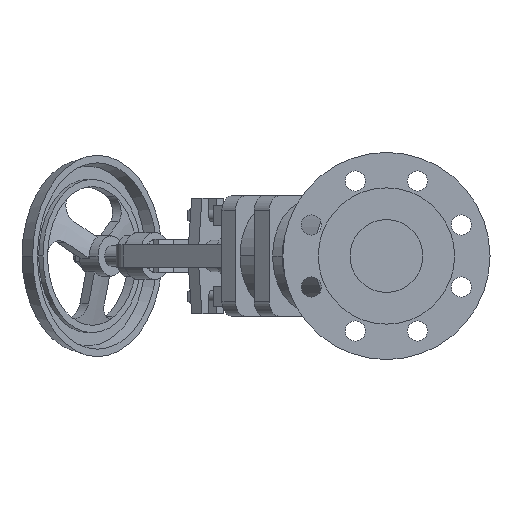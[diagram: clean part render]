
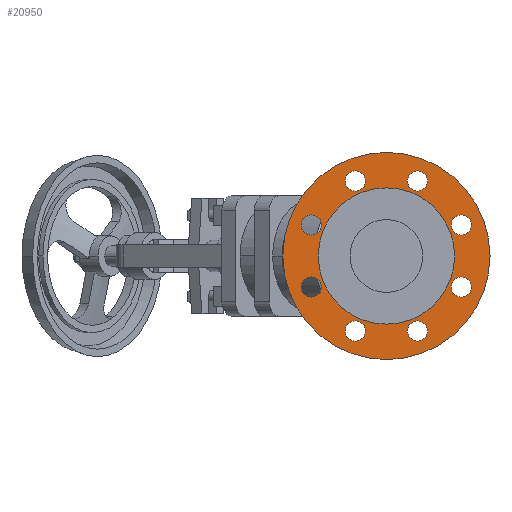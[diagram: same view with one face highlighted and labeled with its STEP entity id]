
A CAD part, left-side view. The second image highlights one B-rep face of the part: STEP entity #20950.
In plain terms, the highlighted planar face has unit normal (-1, 0, 0).
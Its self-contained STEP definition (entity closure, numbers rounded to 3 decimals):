
#4650=CARTESIAN_POINT('',(3.78,60.88,0.));
#4660=VERTEX_POINT('',#4650);
#4820=CARTESIAN_POINT('',(3.78,-60.88,0.));
#4830=VERTEX_POINT('',#4820);
#4860=CARTESIAN_POINT('',(3.78,0.,0.));
#4870=DIRECTION('',(-1.,0.,0.));
#4880=DIRECTION('',(0.,1.,0.));
#4890=AXIS2_PLACEMENT_3D('',#4860,#4870,#4880);
#4900=CIRCLE('',#4890,60.88);
#4910=EDGE_CURVE('',#4660,#4830,#4900,.T.);
#6840=CARTESIAN_POINT('',(3.78,0.,-92.5));
#6850=VERTEX_POINT('',#6840);
#7030=CARTESIAN_POINT('',(3.78,0.,92.5));
#7040=VERTEX_POINT('',#7030);
#7070=CARTESIAN_POINT('',(3.78,0.,0.));
#7080=DIRECTION('',(1.,0.,0.));
#7090=DIRECTION('',(0.,0.,-1.));
#7100=AXIS2_PLACEMENT_3D('',#7070,#7080,#7090);
#7110=CIRCLE('',#7100,92.5);
#7120=EDGE_CURVE('',#6850,#7040,#7110,.T.);
#7330=CARTESIAN_POINT('',(3.78,27.745,-57.981));
#7340=VERTEX_POINT('',#7330);
#7520=CARTESIAN_POINT('',(3.78,27.745,-75.981));
#7530=VERTEX_POINT('',#7520);
#7560=CARTESIAN_POINT('',(3.78,27.745,-66.981));
#7570=DIRECTION('',(-1.,0.,0.));
#7580=DIRECTION('',(0.,0.,-1.));
#7590=AXIS2_PLACEMENT_3D('',#7560,#7570,#7580);
#7600=CIRCLE('',#7590,9.);
#7610=EDGE_CURVE('',#7340,#7530,#7600,.T.);
#7820=CARTESIAN_POINT('',(3.78,-27.745,-57.981));
#7830=VERTEX_POINT('',#7820);
#8010=CARTESIAN_POINT('',(3.78,-27.745,-75.981));
#8020=VERTEX_POINT('',#8010);
#8050=CARTESIAN_POINT('',(3.78,-27.745,-66.981));
#8060=DIRECTION('',(-1.,0.,0.));
#8070=DIRECTION('',(0.,0.,-1.));
#8080=AXIS2_PLACEMENT_3D('',#8050,#8060,#8070);
#8090=CIRCLE('',#8080,9.);
#8100=EDGE_CURVE('',#7830,#8020,#8090,.T.);
#8310=CARTESIAN_POINT('',(3.78,66.981,-18.745));
#8320=VERTEX_POINT('',#8310);
#8500=CARTESIAN_POINT('',(3.78,66.981,-36.745));
#8510=VERTEX_POINT('',#8500);
#8540=CARTESIAN_POINT('',(3.78,66.981,-27.745));
#8550=DIRECTION('',(-1.,0.,0.));
#8560=DIRECTION('',(0.,0.,-1.));
#8570=AXIS2_PLACEMENT_3D('',#8540,#8550,#8560);
#8580=CIRCLE('',#8570,9.);
#8590=EDGE_CURVE('',#8320,#8510,#8580,.T.);
#8800=CARTESIAN_POINT('',(3.78,-66.981,-36.745));
#8810=VERTEX_POINT('',#8800);
#8860=CARTESIAN_POINT('',(3.78,-66.981,-27.745));
#8870=DIRECTION('',(-1.,0.,0.));
#8880=DIRECTION('',(0.,0.,-1.));
#8890=AXIS2_PLACEMENT_3D('',#8860,#8870,#8880);
#8900=CIRCLE('',#8890,9.);
#8910=CARTESIAN_POINT('',(3.78,-66.981,-18.745));
#8920=VERTEX_POINT('',#8910);
#8930=EDGE_CURVE('',#8920,#8810,#8900,.T.);
#9290=CARTESIAN_POINT('',(3.78,66.981,18.745));
#9300=VERTEX_POINT('',#9290);
#9480=CARTESIAN_POINT('',(3.78,66.981,36.745));
#9490=VERTEX_POINT('',#9480);
#9520=CARTESIAN_POINT('',(3.78,66.981,27.745));
#9530=DIRECTION('',(-1.,0.,0.));
#9540=DIRECTION('',(0.,0.,-1.));
#9550=AXIS2_PLACEMENT_3D('',#9520,#9530,#9540);
#9560=CIRCLE('',#9550,9.);
#9570=EDGE_CURVE('',#9300,#9490,#9560,.T.);
#9780=CARTESIAN_POINT('',(3.78,-66.981,36.745));
#9790=VERTEX_POINT('',#9780);
#9840=CARTESIAN_POINT('',(3.78,-66.981,27.745));
#9850=DIRECTION('',(-1.,0.,0.));
#9860=DIRECTION('',(0.,0.,-1.));
#9870=AXIS2_PLACEMENT_3D('',#9840,#9850,#9860);
#9880=CIRCLE('',#9870,9.);
#9890=CARTESIAN_POINT('',(3.78,-66.981,18.745));
#9900=VERTEX_POINT('',#9890);
#9910=EDGE_CURVE('',#9900,#9790,#9880,.T.);
#10270=CARTESIAN_POINT('',(3.78,27.745,57.981));
#10280=VERTEX_POINT('',#10270);
#10460=CARTESIAN_POINT('',(3.78,27.745,75.981));
#10470=VERTEX_POINT('',#10460);
#10500=CARTESIAN_POINT('',(3.78,27.745,66.981));
#10510=DIRECTION('',(-1.,0.,0.));
#10520=DIRECTION('',(0.,0.,-1.));
#10530=AXIS2_PLACEMENT_3D('',#10500,#10510,#10520);
#10540=CIRCLE('',#10530,9.);
#10550=EDGE_CURVE('',#10280,#10470,#10540,.T.);
#10760=CARTESIAN_POINT('',(3.78,-27.745,75.981));
#10770=VERTEX_POINT('',#10760);
#10950=CARTESIAN_POINT('',(3.78,-27.745,57.981));
#10960=VERTEX_POINT('',#10950);
#10990=CARTESIAN_POINT('',(3.78,-27.745,66.981));
#11000=DIRECTION('',(-1.,0.,0.));
#11010=DIRECTION('',(0.,0.,-1.));
#11020=AXIS2_PLACEMENT_3D('',#10990,#11000,#11010);
#11030=CIRCLE('',#11020,9.);
#11040=EDGE_CURVE('',#10770,#10960,#11030,.T.);
#20400=CARTESIAN_POINT('',(3.78,0.,0.));
#20410=DIRECTION('',(1.,0.,0.));
#20420=DIRECTION('',(0.,0.,-1.));
#20430=AXIS2_PLACEMENT_3D('',#20400,#20410,#20420);
#20440=PLANE('',#20430);
#20450=EDGE_CURVE('',#10960,#10770,#11030,.T.);
#20460=ORIENTED_EDGE('',*,*,#20450,.F.);
#20470=ORIENTED_EDGE('',*,*,#11040,.F.);
#20480=EDGE_LOOP('',(#20470,#20460));
#20490=FACE_BOUND('',#20480,.T.);
#20500=EDGE_CURVE('',#10470,#10280,#10540,.T.);
#20510=ORIENTED_EDGE('',*,*,#20500,.F.);
#20520=ORIENTED_EDGE('',*,*,#10550,.F.);
#20530=EDGE_LOOP('',(#20520,#20510));
#20540=FACE_BOUND('',#20530,.T.);
#20550=EDGE_CURVE('',#9790,#9900,#9880,.T.);
#20560=ORIENTED_EDGE('',*,*,#20550,.F.);
#20570=ORIENTED_EDGE('',*,*,#9910,.F.);
#20580=EDGE_LOOP('',(#20570,#20560));
#20590=FACE_BOUND('',#20580,.T.);
#20600=EDGE_CURVE('',#9490,#9300,#9560,.T.);
#20610=ORIENTED_EDGE('',*,*,#20600,.F.);
#20620=ORIENTED_EDGE('',*,*,#9570,.F.);
#20630=EDGE_LOOP('',(#20620,#20610));
#20640=FACE_BOUND('',#20630,.T.);
#20650=EDGE_CURVE('',#8810,#8920,#8900,.T.);
#20660=ORIENTED_EDGE('',*,*,#20650,.F.);
#20670=ORIENTED_EDGE('',*,*,#8930,.F.);
#20680=EDGE_LOOP('',(#20670,#20660));
#20690=FACE_BOUND('',#20680,.T.);
#20700=EDGE_CURVE('',#8510,#8320,#8580,.T.);
#20710=ORIENTED_EDGE('',*,*,#20700,.F.);
#20720=ORIENTED_EDGE('',*,*,#8590,.F.);
#20730=EDGE_LOOP('',(#20720,#20710));
#20740=FACE_BOUND('',#20730,.T.);
#20750=EDGE_CURVE('',#8020,#7830,#8090,.T.);
#20760=ORIENTED_EDGE('',*,*,#20750,.F.);
#20770=ORIENTED_EDGE('',*,*,#8100,.F.);
#20780=EDGE_LOOP('',(#20770,#20760));
#20790=FACE_BOUND('',#20780,.T.);
#20800=EDGE_CURVE('',#7530,#7340,#7600,.T.);
#20810=ORIENTED_EDGE('',*,*,#20800,.F.);
#20820=ORIENTED_EDGE('',*,*,#7610,.F.);
#20830=EDGE_LOOP('',(#20820,#20810));
#20840=FACE_BOUND('',#20830,.T.);
#20850=EDGE_CURVE('',#7040,#6850,#7110,.T.);
#20860=ORIENTED_EDGE('',*,*,#20850,.F.);
#20870=ORIENTED_EDGE('',*,*,#7120,.F.);
#20880=EDGE_LOOP('',(#20870,#20860));
#20890=FACE_OUTER_BOUND('',#20880,.T.);
#20900=EDGE_CURVE('',#4830,#4660,#4900,.T.);
#20910=ORIENTED_EDGE('',*,*,#20900,.F.);
#20920=ORIENTED_EDGE('',*,*,#4910,.F.);
#20930=EDGE_LOOP('',(#20920,#20910));
#20940=FACE_BOUND('',#20930,.T.);
#20950=ADVANCED_FACE('',(#20490,#20540,#20590,#20640,#20690,#20740,
#20790,#20840,#20890,#20940),#20440,.F.);
